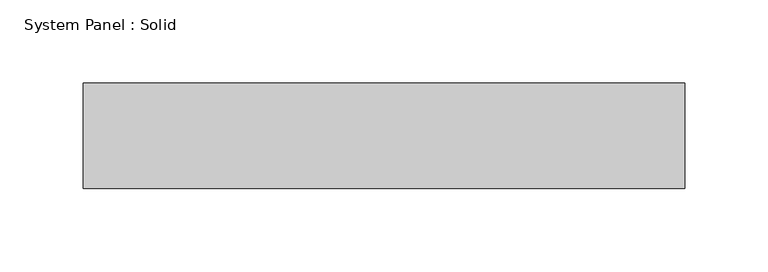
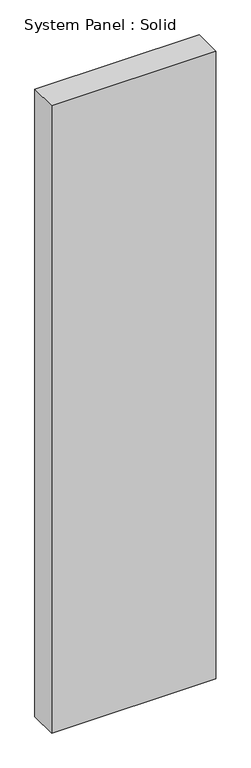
"""IFC4 building model written with IfcOpenShell, lengths in millimetres: plate geometry, System Panel : Solid."""

from ifc_helpers import new_model, si_unit, origin, origin_with_axes, place, context, project, spatial, polyline, outline, extrude, source, transform, mapped, element, save


def system_panel_solid_93991fe5(model_context):
    return source(origin(), model_context, "Body", "SweptSolid", [
        extrude(outline(polyline([(180.975, -19.05), (-180.975, -19.05), (-180.975, 44.45), (180.975, 44.45), (180.975, -19.05)])), origin_with_axes(), (0.0, 0.0, 1.0), 1460.5),
    ])


if __name__ == "__main__":
    model = new_model("IFC4")
    model_context = context("Model", 3, world=origin())
    ifc_project = project(units=[si_unit("LENGTHUNIT", "METRE", prefix="MILLI")], contexts=[model_context])
    site = spatial("IfcSite", under=ifc_project)
    building = spatial("IfcBuilding", under=site)
    placement = place(None, origin())
    system_panel_solid_shape = system_panel_solid_93991fe5(model_context)
    element("IfcPlate", 1, ObjectType="System Panel : Solid", at=placement, inside=building, context=model_context, shape_type="MappedRepresentation", body=[
        mapped(system_panel_solid_shape, transform((0.0, 0.0, 0.0), x_axis=(1.0, 0.0, 0.0), y_axis=(0.0, 1.0, 0.0), z_axis=(0.0, 0.0, 1.0))),
    ])
    save(model, "model.ifc")
